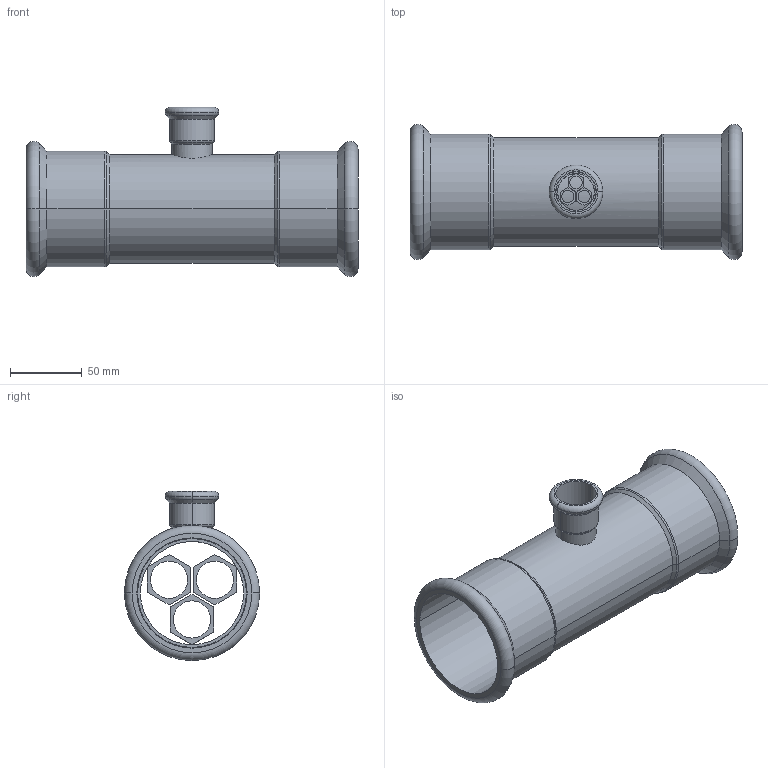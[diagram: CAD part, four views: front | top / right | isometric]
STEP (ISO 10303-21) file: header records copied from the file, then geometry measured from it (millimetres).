
FILE_DESCRIPTION(('OneSpaceDesigner STEP Export'),'2;1');
FILE_NAME('R2715 76x28x76.stp','2010-06-10T 9:19:59',(''),(''),'OneSpace Designer STEP processor for AP214 (Solid Model)','OneSpace Modeling 15.00A 14-Mar-2007 (C) CoCreate Software GmbH','');
FILE_SCHEMA(('AUTOMOTIVE_DESIGN { 1 0 10303 214 1 1 1 1 }'));
Length unit declared in the file: millimetre
Products named in the file (2): R2715_76x28x76
Assembly tree (1 placements, depth 2):
  R2715_76x28x76
    R2715_76x28x76
Bounding box: 232 x 94.48 x 118.24 mm (x, y, z)
Volume: 162233.7 mm3; surface area: 133928 mm2
Topology: 1 solids, 1 shells, 170 faces, 423 edges, 272 vertices
Faces by surface type: plane 90, cylinder 54, torus 14, cone 12
Entity records: 5636 total; most frequent: CARTESIAN_POINT 1887, ORIENTED_EDGE 846, DIRECTION 655, EDGE_CURVE 423, VERTEX_POINT 272, VECTOR 263, LINE 263, EDGE_LOOP 207
